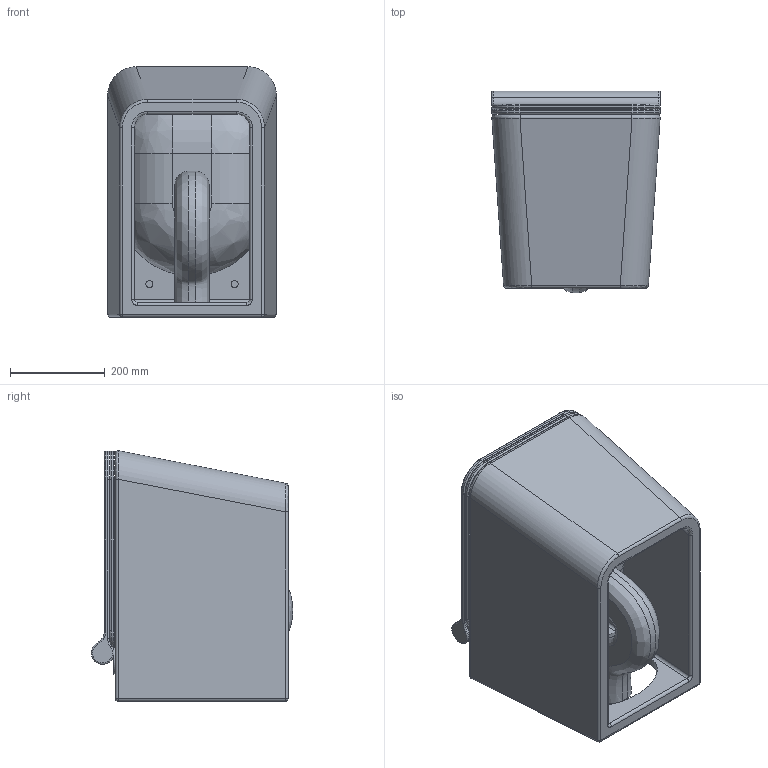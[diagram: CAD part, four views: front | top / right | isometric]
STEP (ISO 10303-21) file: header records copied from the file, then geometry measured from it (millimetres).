
FILE_DESCRIPTION(/* description */ (''),/* implementation_level */ '2;1');
FILE_NAME(/* name */ 'c:\worker\convert-fusion-r08\tmp\job-1\7\output\files\b36d158c-b750-4595-bcd9-975eed8b81df\e5eb4b3f-a9e5-4c21-b7ce-e157ee49d6eb.stp',/* time_stamp */ '2019-11-26T10:54:11+00:00',/* author */ (''),/* organization */ (''),/* preprocessor_version */ 'ST-DEVELOPER v18',/* originating_system */ 'Autodesk Translation Framework v8.12.0.6',/* authorisation */ '');
FILE_SCHEMA (('AUTOMOTIVE_DESIGN { 1 0 10303 214 3 1 1 }'));
Products named in the file (1): !BOSTON MW
Bounding box: 356 x 425.43 x 528.72 mm (x, y, z)
Volume: 25666305.8 mm3; surface area: 2308904.1 mm2
Topology: 5 solids, 5 shells, 564 faces, 1361 edges, 811 vertices
Faces by surface type: cylinder 222, bspline 119, plane 113, torus 97, cone 7, sphere 6
Full cylindrical faces by diameter (mm): 10 x2, 15 x2, 26 x2, 28.293 x2, 41.23 x2, 52.85 x2, 60 x2, 75.72 x1
Entity records: 42033 total; most frequent: CARTESIAN_POINT 29261, ORIENTED_EDGE 2722, DIRECTION 2680, EDGE_CURVE 1361, AXIS2_PLACEMENT_3D 1100, VERTEX_POINT 811, CIRCLE 628, EDGE_LOOP 592
